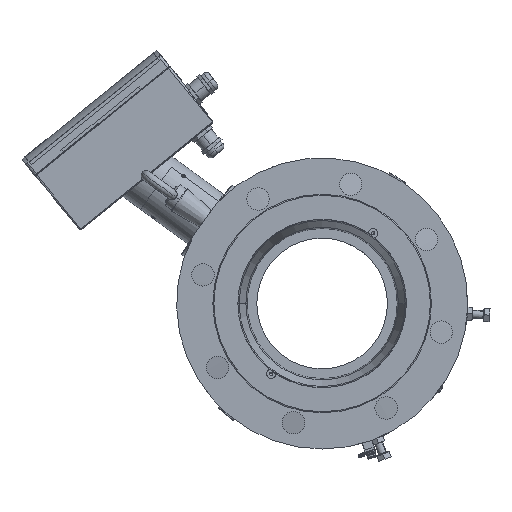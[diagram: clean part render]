
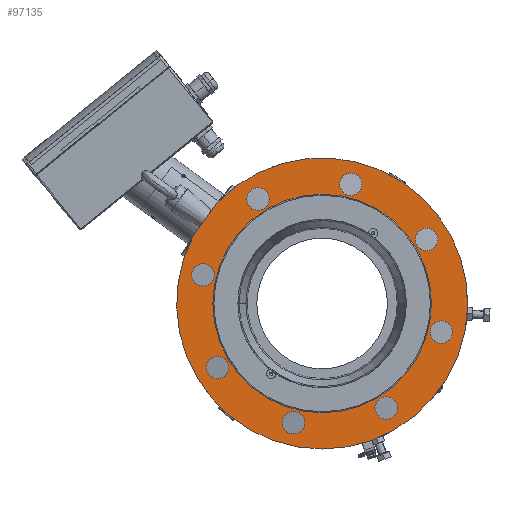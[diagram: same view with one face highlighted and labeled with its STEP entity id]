
A CAD part, left-side view. The second image highlights one B-rep face of the part: STEP entity #97135.
In plain terms, the highlighted planar face has unit normal (-1, 0, 0).
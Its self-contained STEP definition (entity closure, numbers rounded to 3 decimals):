
#23261=CARTESIAN_POINT('',(-223.,0.,0.));
#23262=DIRECTION('',(-1.,0.,0.));
#23263=DIRECTION('',(0.,0.886,0.465));
#23264=AXIS2_PLACEMENT_3D('',#23261,#23262,#23263);
#23387=DIRECTION('',(0.,-0.588,0.809));
#23388=VECTOR('',#23387,20.622);
#23389=CARTESIAN_POINT('',(-223.,126.192,66.195));
#23390=LINE('13663',#23389,#23388);
#23394=DIRECTION('',(0.,-0.588,0.809));
#23395=VECTOR('',#23394,20.622);
#23396=CARTESIAN_POINT('',(-223.,114.071,82.878));
#23397=LINE('13664',#23396,#23395);
#23401=CARTESIAN_POINT('',(-223.,0.,0.));
#23402=DIRECTION('',(-1.,0.,0.));
#23403=DIRECTION('',(0.,1.,0.));
#23404=AXIS2_PLACEMENT_3D('',#23401,#23402,#23403);
#23409=CARTESIAN_POINT('',(-223.,0.,0.));
#23410=DIRECTION('',(1.,0.,0.));
#23411=DIRECTION('',(0.,1.,0.));
#23412=AXIS2_PLACEMENT_3D('',#23409,#23410,#23411);
#23417=CARTESIAN_POINT('',(-223.,116.684,28.013));
#23418=DIRECTION('',(1.,0.,0.));
#23419=DIRECTION('',(0.,1.,0.));
#23420=AXIS2_PLACEMENT_3D('',#23417,#23418,#23419);
#23425=CARTESIAN_POINT('',(-223.,116.684,28.013));
#23426=DIRECTION('',(1.,0.,0.));
#23427=DIRECTION('',(0.,-1.,0.));
#23428=AXIS2_PLACEMENT_3D('',#23425,#23426,#23427);
#23433=CARTESIAN_POINT('',(-223.,62.7,102.317));
#23434=DIRECTION('',(1.,0.,0.));
#23435=DIRECTION('',(0.,0.707,0.707));
#23436=AXIS2_PLACEMENT_3D('',#23433,#23434,#23435);
#23441=CARTESIAN_POINT('',(-223.,62.7,102.317));
#23442=DIRECTION('',(1.,0.,0.));
#23443=DIRECTION('',(0.,-0.707,-0.707));
#23444=AXIS2_PLACEMENT_3D('',#23441,#23442,#23443);
#23449=CARTESIAN_POINT('',(-223.,-28.013,116.684));
#23450=DIRECTION('',(1.,0.,0.));
#23451=DIRECTION('',(0.,0.,1.));
#23452=AXIS2_PLACEMENT_3D('',#23449,#23450,#23451);
#23457=CARTESIAN_POINT('',(-223.,-28.013,116.684));
#23458=DIRECTION('',(1.,0.,0.));
#23459=DIRECTION('',(0.,0.,-1.));
#23460=AXIS2_PLACEMENT_3D('',#23457,#23458,#23459);
#23465=CARTESIAN_POINT('',(-223.,-102.317,62.7));
#23466=DIRECTION('',(1.,0.,0.));
#23467=DIRECTION('',(0.,-0.707,0.707));
#23468=AXIS2_PLACEMENT_3D('',#23465,#23466,#23467);
#23473=CARTESIAN_POINT('',(-223.,-102.317,62.7));
#23474=DIRECTION('',(1.,0.,0.));
#23475=DIRECTION('',(0.,0.707,-0.707));
#23476=AXIS2_PLACEMENT_3D('',#23473,#23474,#23475);
#23481=CARTESIAN_POINT('',(-223.,-116.684,-28.013));
#23482=DIRECTION('',(1.,0.,0.));
#23483=DIRECTION('',(0.,-1.,0.));
#23484=AXIS2_PLACEMENT_3D('',#23481,#23482,#23483);
#23489=CARTESIAN_POINT('',(-223.,-116.684,-28.013));
#23490=DIRECTION('',(1.,0.,0.));
#23491=DIRECTION('',(0.,1.,0.));
#23492=AXIS2_PLACEMENT_3D('',#23489,#23490,#23491);
#23497=CARTESIAN_POINT('',(-223.,-62.7,-102.317));
#23498=DIRECTION('',(1.,0.,0.));
#23499=DIRECTION('',(0.,-0.707,-0.707));
#23500=AXIS2_PLACEMENT_3D('',#23497,#23498,#23499);
#23505=CARTESIAN_POINT('',(-223.,-62.7,-102.317));
#23506=DIRECTION('',(1.,0.,0.));
#23507=DIRECTION('',(0.,0.707,0.707));
#23508=AXIS2_PLACEMENT_3D('',#23505,#23506,#23507);
#23513=CARTESIAN_POINT('',(-223.,28.013,-116.684));
#23514=DIRECTION('',(1.,0.,0.));
#23515=DIRECTION('',(0.,0.,-1.));
#23516=AXIS2_PLACEMENT_3D('',#23513,#23514,#23515);
#23521=CARTESIAN_POINT('',(-223.,28.013,-116.684));
#23522=DIRECTION('',(1.,0.,0.));
#23523=DIRECTION('',(0.,0.,1.));
#23524=AXIS2_PLACEMENT_3D('',#23521,#23522,#23523);
#23529=CARTESIAN_POINT('',(-223.,102.317,-62.7));
#23530=DIRECTION('',(1.,0.,0.));
#23531=DIRECTION('',(0.,0.707,-0.707));
#23532=AXIS2_PLACEMENT_3D('',#23529,#23530,#23531);
#23537=CARTESIAN_POINT('',(-223.,102.317,-62.7));
#23538=DIRECTION('',(1.,0.,0.));
#23539=DIRECTION('',(0.,-0.707,0.707));
#23540=AXIS2_PLACEMENT_3D('',#23537,#23538,#23539);
#69943=CARTESIAN_POINT('',(-223.,127.684,28.013));
#69944=CARTESIAN_POINT('',(-223.,105.684,28.013));
#69945=VERTEX_POINT('',#69943);
#69946=VERTEX_POINT('',#69944);
#69951=CARTESIAN_POINT('',(-223.,70.478,110.095));
#69952=CARTESIAN_POINT('',(-223.,54.922,94.539));
#69953=VERTEX_POINT('',#69951);
#69954=VERTEX_POINT('',#69952);
#69959=CARTESIAN_POINT('',(-223.,-28.013,127.684));
#69960=CARTESIAN_POINT('',(-223.,-28.013,105.684));
#69961=VERTEX_POINT('',#69959);
#69962=VERTEX_POINT('',#69960);
#69967=CARTESIAN_POINT('',(-223.,-110.095,70.478));
#69968=CARTESIAN_POINT('',(-223.,-94.539,54.922));
#69969=VERTEX_POINT('',#69967);
#69970=VERTEX_POINT('',#69968);
#69975=CARTESIAN_POINT('',(-223.,-127.684,-28.013));
#69976=CARTESIAN_POINT('',(-223.,-105.684,-28.013));
#69977=VERTEX_POINT('',#69975);
#69978=VERTEX_POINT('',#69976);
#69983=CARTESIAN_POINT('',(-223.,-70.478,-110.095));
#69984=CARTESIAN_POINT('',(-223.,-54.922,-94.539));
#69985=VERTEX_POINT('',#69983);
#69986=VERTEX_POINT('',#69984);
#69991=CARTESIAN_POINT('',(-223.,28.013,-127.684));
#69992=CARTESIAN_POINT('',(-223.,28.013,-105.684));
#69993=VERTEX_POINT('',#69991);
#69994=VERTEX_POINT('',#69992);
#69999=CARTESIAN_POINT('',(-223.,110.095,-70.478));
#70000=CARTESIAN_POINT('',(-223.,94.539,-54.922));
#70001=VERTEX_POINT('',#69999);
#70002=VERTEX_POINT('',#70000);
#70093=CARTESIAN_POINT('',(-223.,107.,0.));
#70094=VERTEX_POINT('',#70093);
#70099=CARTESIAN_POINT('',(-223.,-107.,0.));
#70100=VERTEX_POINT('',#70099);
#70234=CARTESIAN_POINT('',(-223.,101.95,99.561));
#70236=VERTEX_POINT('',#70234);
#70238=CARTESIAN_POINT('',(-223.,126.192,66.195));
#70240=VERTEX_POINT('',#70238);
#79062=CARTESIAN_POINT('',(-223.,114.071,82.878));
#79063=VERTEX_POINT('',#79062);
#97071=CARTESIAN_POINT('',(-223.,0.,0.));
#97072=DIRECTION('',(-1.,0.,0.));
#97073=DIRECTION('',(0.,1.,0.));
#97074=AXIS2_PLACEMENT_3D('',#97071,#97072,#97073);
#97075=PLANE('441',#97074);
#97076=ORIENTED_EDGE('13663',*,*,#96978,.T.);
#97077=ORIENTED_EDGE('13664',*,*,#97026,.T.);
#97078=ORIENTED_EDGE('4711',*,*,#97050,.F.);
#97079=EDGE_LOOP('441',(#97076,#97077,#97078));
#97080=FACE_OUTER_BOUND('441',#97079,.F.);
#97082=ORIENTED_EDGE('4584',*,*,#97081,.T.);
#97084=ORIENTED_EDGE('4587',*,*,#97083,.F.);
#97085=EDGE_LOOP('441',(#97082,#97084));
#97086=FACE_BOUND('441',#97085,.F.);
#97088=ORIENTED_EDGE('4452',*,*,#97087,.F.);
#97090=ORIENTED_EDGE('4453',*,*,#97089,.F.);
#97091=EDGE_LOOP('441',(#97088,#97090));
#97092=FACE_BOUND('441',#97091,.F.);
#97094=ORIENTED_EDGE('4458',*,*,#97093,.F.);
#97096=ORIENTED_EDGE('4459',*,*,#97095,.F.);
#97097=EDGE_LOOP('441',(#97094,#97096));
#97098=FACE_BOUND('441',#97097,.F.);
#97100=ORIENTED_EDGE('4464',*,*,#97099,.F.);
#97102=ORIENTED_EDGE('4465',*,*,#97101,.F.);
#97103=EDGE_LOOP('441',(#97100,#97102));
#97104=FACE_BOUND('441',#97103,.F.);
#97106=ORIENTED_EDGE('4470',*,*,#97105,.F.);
#97108=ORIENTED_EDGE('4471',*,*,#97107,.F.);
#97109=EDGE_LOOP('441',(#97106,#97108));
#97110=FACE_BOUND('441',#97109,.F.);
#97112=ORIENTED_EDGE('4476',*,*,#97111,.F.);
#97114=ORIENTED_EDGE('4477',*,*,#97113,.F.);
#97115=EDGE_LOOP('441',(#97112,#97114));
#97116=FACE_BOUND('441',#97115,.F.);
#97118=ORIENTED_EDGE('4482',*,*,#97117,.F.);
#97120=ORIENTED_EDGE('4483',*,*,#97119,.F.);
#97121=EDGE_LOOP('441',(#97118,#97120));
#97122=FACE_BOUND('441',#97121,.F.);
#97124=ORIENTED_EDGE('4488',*,*,#97123,.F.);
#97126=ORIENTED_EDGE('4489',*,*,#97125,.F.);
#97127=EDGE_LOOP('441',(#97124,#97126));
#97128=FACE_BOUND('441',#97127,.F.);
#97130=ORIENTED_EDGE('4494',*,*,#97129,.F.);
#97132=ORIENTED_EDGE('4495',*,*,#97131,.F.);
#97133=EDGE_LOOP('441',(#97130,#97132));
#97134=FACE_BOUND('441',#97133,.F.);
#23265=CIRCLE('4711',#23264,142.5);
#23405=CIRCLE('4584',#23404,107.);
#23413=CIRCLE('4587',#23412,107.);
#23421=CIRCLE('4452',#23420,11.);
#23429=CIRCLE('4453',#23428,11.);
#23437=CIRCLE('4458',#23436,11.);
#23445=CIRCLE('4459',#23444,11.);
#23453=CIRCLE('4464',#23452,11.);
#23461=CIRCLE('4465',#23460,11.);
#23469=CIRCLE('4470',#23468,11.);
#23477=CIRCLE('4471',#23476,11.);
#23485=CIRCLE('4476',#23484,11.);
#23493=CIRCLE('4477',#23492,11.);
#23501=CIRCLE('4482',#23500,11.);
#23509=CIRCLE('4483',#23508,11.);
#23517=CIRCLE('4488',#23516,11.);
#23525=CIRCLE('4489',#23524,11.);
#23533=CIRCLE('4494',#23532,11.);
#23541=CIRCLE('4495',#23540,11.);
#96978=EDGE_CURVE('13663',#70240,#79063,#23390,.T.);
#97026=EDGE_CURVE('13664',#79063,#70236,#23397,.T.);
#97050=EDGE_CURVE('4711',#70240,#70236,#23265,.T.);
#97081=EDGE_CURVE('4584',#70094,#70100,#23405,.T.);
#97083=EDGE_CURVE('4587',#70094,#70100,#23413,.T.);
#97087=EDGE_CURVE('4452',#69945,#69946,#23421,.T.);
#97089=EDGE_CURVE('4453',#69946,#69945,#23429,.T.);
#97093=EDGE_CURVE('4458',#69953,#69954,#23437,.T.);
#97095=EDGE_CURVE('4459',#69954,#69953,#23445,.T.);
#97099=EDGE_CURVE('4464',#69961,#69962,#23453,.T.);
#97101=EDGE_CURVE('4465',#69962,#69961,#23461,.T.);
#97105=EDGE_CURVE('4470',#69969,#69970,#23469,.T.);
#97107=EDGE_CURVE('4471',#69970,#69969,#23477,.T.);
#97111=EDGE_CURVE('4476',#69977,#69978,#23485,.T.);
#97113=EDGE_CURVE('4477',#69978,#69977,#23493,.T.);
#97117=EDGE_CURVE('4482',#69985,#69986,#23501,.T.);
#97119=EDGE_CURVE('4483',#69986,#69985,#23509,.T.);
#97123=EDGE_CURVE('4488',#69993,#69994,#23517,.T.);
#97125=EDGE_CURVE('4489',#69994,#69993,#23525,.T.);
#97129=EDGE_CURVE('4494',#70001,#70002,#23533,.T.);
#97131=EDGE_CURVE('4495',#70002,#70001,#23541,.T.);
#97135=ADVANCED_FACE('441',(#97080,#97086,#97092,#97098,#97104,#97110,#97116,
#97122,#97128,#97134),#97075,.T.);
